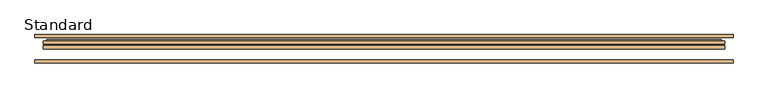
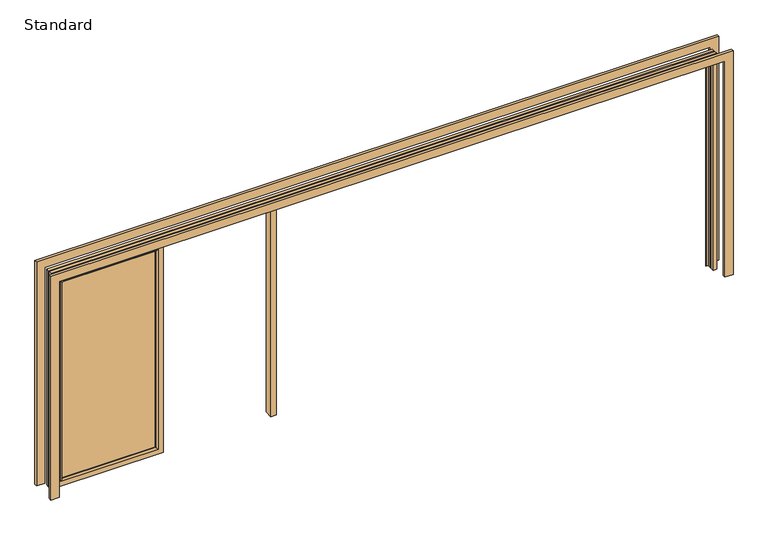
"""IFC4 building model written with IfcOpenShell, lengths in millimetres: door geometry, SMARTS_Visofold1000 : Standard."""

import ifcopenshell
import ifcopenshell.guid

model = None  # the IFC model being written
_history = None  # IfcOwnerHistory: only IFC2X3 demands one
_inside = {}  # id of a spatial element -> (the spatial element, [elements in it])
_under = {}  # id of a project, library or spatial element -> (it, [spatial elements below it])
_declared = {}  # id of a project -> (the project, [libraries it declares])
_typed = {}  # id of a type object -> (the type object, [elements of that type])
_made_of = {}  # id of a material, layer set ... -> (it, [elements and type objects made of it])


def new_model(schema):
    """Start an empty IFC model of exactly this schema.

    Asked for "IFC4X3", IfcOpenShell would pick the latest addendum, in which some entities
    have other attributes; the version numbers below select the first issue.
    IFC2X3 requires an IfcOwnerHistory on every rooted entity: one is made here for all.
    """
    global model, _history
    if schema == "IFC4X3":
        model = ifcopenshell.file(schema_version=(4, 3, 0, 0))
    else:
        model = ifcopenshell.file(schema=schema)
    _inside.clear()
    _under.clear()
    _declared.clear()
    _typed.clear()
    _made_of.clear()
    _history = None
    if model.schema == "IFC2X3":
        org = make("IfcOrganization", Name="unknown")
        user = make(
            "IfcPersonAndOrganization",
            ThePerson=make("IfcPerson", FamilyName="unknown"),
            TheOrganization=org,
        )
        app = make(
            "IfcApplication",
            ApplicationDeveloper=org,
            Version="unknown",
            ApplicationFullName="unknown",
            ApplicationIdentifier="unknown",
        )
        _history = make(
            "IfcOwnerHistory",
            OwningUser=user,
            OwningApplication=app,
            ChangeAction="ADDED",
            CreationDate=0,
        )
    return model


def make(cls, **values):
    """One entity of the class cls with the attributes given. An attribute that is None is left unset."""
    return model.create_entity(
        cls, **{name: value for name, value in values.items() if value is not None}
    )


def rooted(cls, **values):
    """An entity with a GlobalId (a new one), such as an element, a storey or a relation."""
    return make(cls, GlobalId=ifcopenshell.guid.new(), OwnerHistory=_history, **values)


def si_unit(unit_type, name, prefix=None):
    """IfcSIUnit, for example si_unit("LENGTHUNIT", "METRE", prefix="MILLI")."""
    return make("IfcSIUnit", UnitType=unit_type, Prefix=prefix, Name=name)


def assignment(units):
    """IfcUnitAssignment: the units of a project."""
    return None if units is None else make("IfcUnitAssignment", Units=units)


def point(xyz):
    """IfcCartesianPoint."""
    return None if xyz is None else make("IfcCartesianPoint", Coordinates=xyz)


def direction(xyz):
    """IfcDirection."""
    return None if xyz is None else make("IfcDirection", DirectionRatios=xyz)


def frame(location, z_axis=None, x_axis=None):
    """IfcAxis2Placement3D, a coordinate frame: its origin and axes. An axis left out is left unset."""
    return make(
        "IfcAxis2Placement3D",
        Location=point(location),
        Axis=direction(z_axis),
        RefDirection=direction(x_axis),
    )


def origin():
    """The frame at (0, 0, 0) with its axes left unset."""
    return frame((0.0, 0.0, 0.0))


def origin_with_axes():
    """The frame at (0, 0, 0) with the z axis (0, 0, 1) and the x axis (1, 0, 0) written out."""
    return frame((0.0, 0.0, 0.0), z_axis=(0.0, 0.0, 1.0), x_axis=(1.0, 0.0, 0.0))


def place(relative_to, where):
    """IfcLocalPlacement: puts the frame where relative to a parent placement (None: the world)."""
    return make(
        "IfcLocalPlacement", PlacementRelTo=relative_to, RelativePlacement=where
    )


def context(
    kind, dimensions, precision=None, world=None, true_north=None, identifier=None
):
    """IfcGeometricRepresentationContext, for example the 3D "Model" context."""
    return make(
        "IfcGeometricRepresentationContext",
        ContextIdentifier=identifier,
        ContextType=kind,
        CoordinateSpaceDimension=dimensions,
        Precision=precision,
        WorldCoordinateSystem=world,
        TrueNorth=true_north,
    )


def project(units=None, contexts=None):
    """IfcProject with its units and contexts."""
    return rooted(
        "IfcProject",
        Name="project",
        RepresentationContexts=contexts,
        UnitsInContext=assignment(units),
    )


def spatial(cls, under=None, at=None, **own):
    """A site, building, storey or space (cls), placed at a placement, below another one or the project."""
    s = rooted(cls, ObjectPlacement=at, **own)
    if under is not None:
        _under.setdefault(under.id(), (under, []))[1].append(s)
    return s


def polyline(points):
    """IfcPolyline through the points."""
    return make("IfcPolyline", Points=[point(p) for p in points])


def ellipse_curve(where, semi_axis1, semi_axis2):
    """IfcEllipse in the frame where."""
    return make(
        "IfcEllipse", Position=where, SemiAxis1=semi_axis1, SemiAxis2=semi_axis2
    )


def outline(outer, holes=None, kind="AREA"):
    """IfcArbitraryClosedProfileDef: a profile drawn as a closed curve; with holes, ...WithVoids."""
    if holes is None:
        return make("IfcArbitraryClosedProfileDef", ProfileType=kind, OuterCurve=outer)
    return make(
        "IfcArbitraryProfileDefWithVoids",
        ProfileType=kind,
        OuterCurve=outer,
        InnerCurves=holes,
    )


def extrude(swept, where, along, depth):
    """IfcExtrudedAreaSolid: the profile swept, set in the frame where, extruded along a direction by depth."""
    return make(
        "IfcExtrudedAreaSolid",
        SweptArea=swept,
        Position=where,
        ExtrudedDirection=direction(along),
        Depth=depth,
    )


def faces_of(points, faces, orient=None, outer=None):
    """IfcFace entities. A face is a list of loops; a loop is a list of indices into points, from 0.

    orient and outer hold one flag for each loop. By default every Orientation is true, the
    first loop of a face is its IfcFaceOuterBound and the others are IfcFaceBound.
    """
    made = []
    for i, loops in enumerate(faces):
        bounds = []
        for j, loop in enumerate(loops):
            is_outer = j == 0 if outer is None else outer[i][j]
            bounds.append(
                make(
                    "IfcFaceOuterBound" if is_outer else "IfcFaceBound",
                    Bound=make("IfcPolyLoop", Polygon=[points[k] for k in loop]),
                    Orientation=True if orient is None else orient[i][j],
                )
            )
        made.append(make("IfcFace", Bounds=bounds))
    return made


def faceted_brep(points, faces, orient=None, outer=None, voids=None):
    """IfcFacetedBrep: a solid bounded by flat faces; with voids (closed shells), ...WithVoids."""
    shared = [point(p) for p in points]
    hull = make("IfcClosedShell", CfsFaces=faces_of(shared, faces, orient, outer))
    if voids is None:
        return make("IfcFacetedBrep", Outer=hull)
    return make(
        "IfcFacetedBrepWithVoids",
        Outer=hull,
        Voids=[
            make(cls, CfsFaces=faces_of(shared, fs, o, b)) for cls, fs, o, b in voids
        ],
    )


def shape(context_of_items, identifier, shape_type, items):
    """IfcShapeRepresentation: the items that make up one representation, for example the "Body"."""
    return make(
        "IfcShapeRepresentation",
        ContextOfItems=context_of_items,
        RepresentationIdentifier=identifier,
        RepresentationType=shape_type,
        Items=items,
    )


def source(mapping_origin, context_of_items, identifier, shape_type, items):
    """IfcRepresentationMap: a shape defined once, which mapped items show again and again."""
    return make(
        "IfcRepresentationMap",
        MappingOrigin=mapping_origin,
        MappedRepresentation=shape(context_of_items, identifier, shape_type, items),
    )


def transform(
    local_origin,
    x_axis=None,
    y_axis=None,
    z_axis=None,
    scale=None,
    scale2=None,
    scale3=None,
    uniform=True,
):
    """IfcCartesianTransformationOperator3D, or its non-uniform kind. x_axis, y_axis, z_axis: its Axis1, 2, 3."""
    if uniform:
        return make(
            "IfcCartesianTransformationOperator3D",
            Axis1=direction(x_axis),
            Axis2=direction(y_axis),
            LocalOrigin=point(local_origin),
            Scale=scale,
            Axis3=direction(z_axis),
        )
    return make(
        "IfcCartesianTransformationOperator3DnonUniform",
        Axis1=direction(x_axis),
        Axis2=direction(y_axis),
        LocalOrigin=point(local_origin),
        Scale=scale,
        Axis3=direction(z_axis),
        Scale2=scale2,
        Scale3=scale3,
    )


def mapped(mapping_source, mapping_target):
    """IfcMappedItem: shows the shape of a source again, moved by a transform."""
    return make(
        "IfcMappedItem", MappingSource=mapping_source, MappingTarget=mapping_target
    )


def made_of(thing, what):
    """Note that an element or type object is made of a material, layer set ...; save() writes the relation."""
    if what is not None:
        _made_of.setdefault(what.id(), (what, []))[1].append(thing)
    return thing


def element(
    cls,
    number,
    at=None,
    inside=None,
    cuts=None,
    type_object=None,
    material=None,
    context=None,
    identifier="Body",
    shape_type=None,
    held_by="IfcProductDefinitionShape",
    body=None,
    shapes=None,
    **own,
):
    """One element of the class cls, such as IfcWall. Its Tag is "e" and its number.

    at: its placement. inside: the storey or other place that contains it. cuts: it is an
    opening in that element (IfcRelVoidsElement). A single representation is given by context,
    identifier, shape_type and body (its items); several are given by shapes. held_by: the class
    of the entity that holds the representations. save() writes the other relations.
    """
    e = rooted(cls, Tag="e%d" % number, ObjectPlacement=at, **own)
    if body is not None:
        shapes = [shape(context, identifier, shape_type, body)]
    if shapes is not None:
        e.Representation = make(held_by, Representations=shapes)
    if inside is not None:
        _inside.setdefault(inside.id(), (inside, []))[1].append(e)
    if cuts is not None:
        rooted(
            "IfcRelVoidsElement", RelatingBuildingElement=cuts, RelatedOpeningElement=e
        )
    if type_object is not None:
        _typed.setdefault(type_object.id(), (type_object, []))[1].append(e)
    return made_of(e, material)


def aggregate(whole, parts):
    """IfcRelAggregates: a whole, such as a stair, and the parts it consists of."""
    return rooted("IfcRelAggregates", RelatingObject=whole, RelatedObjects=parts)


def save(model, path):
    """Write the relations noted so far, then the file.

    IfcRelAggregates (storeys below a building ...), IfcRelContainedInSpatialStructure (elements
    in a storey), IfcRelDefinesByType, IfcRelAssociatesMaterial and IfcRelDeclares: one each for
    every whole, place, type object, material and project.
    """
    for whole, parts in _under.values():
        aggregate(whole, parts)
    for where, things in _inside.values():
        rooted(
            "IfcRelContainedInSpatialStructure",
            RelatedElements=things,
            RelatingStructure=where,
        )
    for kind, things in _typed.values():
        rooted("IfcRelDefinesByType", RelatedObjects=things, RelatingType=kind)
    for what, things in _made_of.values():
        rooted("IfcRelAssociatesMaterial", RelatedObjects=things, RelatingMaterial=what)
    for by, libraries in _declared.values():
        rooted("IfcRelDeclares", RelatingContext=by, RelatedDefinitions=libraries)
    model.write(path)


def plane_surface(at):
    """IfcPlane: the flat surface through the origin of the frame at, square to its z axis."""
    return make("IfcPlane", Position=at)


def cylinder_surface(at, radius):
    """IfcCylindricalSurface: all points at the distance radius from the z axis of the frame at."""
    return make("IfcCylindricalSurface", Position=at, Radius=radius)


def advanced_brep(points, edges, surfaces, faces):
    """IfcAdvancedBrep: a solid bounded by faces that lie on surfaces and meet in shared edges.

    An edge is (start, end): straight between two places in points (the first is 0);
    or (start, end, curve); or (start, end, curve, False) where it runs against its curve.
    A face is (place in surfaces, loops), or (place, loops, False) where it looks against
    its surface's normal. A loop lists edges by number (the first is 1), with a minus sign
    where the edge is run from its end to its start. The first loop is the outer one.
    """
    corners = [point(p) for p in points]
    vertices = [make("IfcVertexPoint", VertexGeometry=c) for c in corners]
    made = []
    for start, end, *more in edges:
        made.append(
            make(
                "IfcEdgeCurve",
                EdgeStart=vertices[start],
                EdgeEnd=vertices[end],
                EdgeGeometry=more[0] if more else make("IfcPolyline", Points=[corners[start], corners[end]]),
                SameSense=more[1] if len(more) > 1 else True,
            )
        )
    hull = []
    for where, loops, *sense in faces:
        bounds = []
        for j, loop in enumerate(loops):
            ring = [make("IfcOrientedEdge", EdgeElement=made[abs(k) - 1], Orientation=k > 0) for k in loop]
            bounds.append(
                make(
                    "IfcFaceOuterBound" if j == 0 else "IfcFaceBound",
                    Bound=make("IfcEdgeLoop", EdgeList=ring),
                    Orientation=True,
                )
            )
        hull.append(make("IfcAdvancedFace", Bounds=bounds, FaceSurface=surfaces[where], SameSense=sense[0] if sense else True))
    return make("IfcAdvancedBrep", Outer=make("IfcClosedShell", CfsFaces=hull))


def standard_87167aca(model_context):
    return source(origin(), model_context, "Body", "SolidModel", [
        advanced_brep(
        [(-2050.5, 13.3, 60.5), (-2050.5, 13.3, 1939.5), (-2050.5, 17.4, 1939.5), (-2050.5, 17.4, 60.5), (-1990.0, 17.4, 0.0), (-1990.0, 17.4, 2000.0), (-1990.0, 0.0, 2000.0), (-1990.0, 0.0, 0.0), (-2899.5, 13.3, 1939.5), (-2899.5, 17.4, 1939.5), (-2960.0, 17.4, 2000.0), (-2960.0, 0.0, 2000.0), (-2899.5, 13.3, 60.5), (-2899.5, 17.4, 60.5), (-2960.0, 17.4, 0.0), (-2960.0, 0.0, 0.0), (-2037.2, 0.0, 1952.8), (-2037.2, 0.0, 47.2), (-2912.8, 0.0, 47.2), (-2912.8, 0.0, 1952.8), (-2007.8691481, 34.8, 17.8691481), (-2007.8691481, 34.8, 1982.1308519), (-2007.8691481, 17.4, 1982.1308519), (-2007.8691481, 17.4, 17.8691481), (-2942.1308519, 34.8, 1982.1308519), (-2942.1308519, 17.4, 1982.1308519), (-2942.1308519, 34.8, 17.8691481), (-2942.1308519, 17.4, 17.8691481), (-2035.0, 17.4, 45.0), (-2035.0, 17.4, 1955.0), (-2035.0, 34.8, 1955.0), (-2035.0, 34.8, 45.0), (-2915.0, 17.4, 1955.0), (-2915.0, 34.8, 1955.0), (-2915.0, 17.4, 45.0), (-2915.0, 34.8, 45.0)],
        [
            (0, 1),
            (1, 2),
            (2, 3),
            (3, 0),
            (4, 5),
            (5, 6),
            (6, 7),
            (7, 4),
            (1, 8),
            (8, 9),
            (9, 2),
            (5, 10),
            (10, 11),
            (11, 6),
            (8, 12),
            (12, 13),
            (13, 9),
            (10, 14),
            (14, 15),
            (15, 11),
            (12, 0),
            (3, 13),
            (15, 7),
            (16, 17),
            (17, 18),
            (18, 19),
            (19, 16),
            (14, 4),
            (16, 1, ellipse_curve(frame((-2037.2, 13.3, 1952.8), z_axis=(0.7071067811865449, 0.0, -0.70710678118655), x_axis=(-0.7071067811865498, 0.0, -0.7071067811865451)), 18.8090404, 13.3)),
            (0, 17, ellipse_curve(frame((-2037.2, 13.3, 47.2), z_axis=(0.70710678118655, 0.0, 0.7071067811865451), x_axis=(0.7071067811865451, 0.0, -0.7071067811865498)), 18.8090404, 13.3)),
            (19, 8, ellipse_curve(frame((-2912.8, 13.3, 1952.8), z_axis=(0.7071067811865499, 0.0, 0.707106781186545), x_axis=(0.7071067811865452, 0.0, -0.7071067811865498)), 18.8090404, 13.3)),
            (18, 12, ellipse_curve(frame((-2912.8, 13.3, 47.2), z_axis=(-0.7071067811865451, 0.0, 0.7071067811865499), x_axis=(0.7071067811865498, 0.0, 0.7071067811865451)), 18.8090404, 13.3)),
            (20, 21),
            (21, 22),
            (22, 23),
            (23, 20),
            (21, 24),
            (24, 25),
            (25, 22),
            (24, 26),
            (26, 27),
            (27, 25),
            (27, 23),
            (26, 20),
            (28, 29),
            (29, 30),
            (30, 31),
            (31, 28),
            (29, 32),
            (32, 33),
            (33, 30),
            (32, 34),
            (34, 35),
            (35, 33),
            (34, 28),
            (31, 35),
        ],
        [
            plane_surface(frame((-2050.5, 17.4, 60.5), z_axis=(-1.0, 0.0, 0.0), x_axis=(0.0, 0.0, 1.0))),
            plane_surface(frame((-1990.0, 0.0, 0.0), z_axis=(1.0, 0.0, 0.0), x_axis=(0.0, 0.0, 1.0))),
            plane_surface(frame((-2050.5, 17.4, 1939.5), z_axis=(0.0, 0.0, -1.0), x_axis=(-1.0, 0.0, 0.0))),
            plane_surface(frame((-1990.0, 0.0, 2000.0), z_axis=(0.0, 0.0, 1.0), x_axis=(-1.0, 0.0, 0.0))),
            plane_surface(frame((-2899.5, 17.4, 1939.5), z_axis=(1.0, 0.0, 0.0), x_axis=(0.0, 0.0, -1.0))),
            plane_surface(frame((-2960.0, 0.0, 2000.0), z_axis=(-1.0, 0.0, 0.0), x_axis=(0.0, 0.0, -1.0))),
            plane_surface(frame((-2899.5, 17.4, 60.5), z_axis=(0.0, 0.0, 1.0), x_axis=(1.0, 0.0, 0.0))),
            plane_surface(frame((-2912.8, 0.0, 47.2), z_axis=(0.0, -1.0, 0.0), x_axis=(1.0, 0.0, 0.0))),
            plane_surface(frame((-2960.0, 0.0, 0.0), z_axis=(0.0, 0.0, -1.0), x_axis=(1.0, 0.0, 0.0))),
            cylinder_surface(frame((-2037.2, 13.3, 0.0), z_axis=(0.0, 0.0, -1.0), x_axis=(0.0, 1.0, 0.0)), 13.3),
            cylinder_surface(frame((-1990.0, 13.3, 1952.8), z_axis=(1.0, 0.0, 0.0), x_axis=(0.0, 1.0, 0.0)), 13.3),
            cylinder_surface(frame((-2912.8, 13.3, 2000.0), z_axis=(0.0, 0.0, 1.0), x_axis=(0.0, 1.0, 0.0)), 13.3),
            cylinder_surface(frame((-2960.0, 13.3, 47.2), z_axis=(-1.0, 0.0, 0.0), x_axis=(0.0, 1.0, 0.0)), 13.3),
            plane_surface(frame((-2007.8691481, 17.4, 17.8691481), z_axis=(1.0, 0.0, 0.0), x_axis=(0.0, 0.0, 1.0))),
            plane_surface(frame((-2007.8691481, 17.4, 1982.1308519), z_axis=(0.0, 0.0, 1.0), x_axis=(-1.0, 0.0, 0.0))),
            plane_surface(frame((-2942.1308519, 17.4, 1982.1308519), z_axis=(-1.0, 0.0, 0.0), x_axis=(0.0, 0.0, -1.0))),
            plane_surface(frame((-2960.0, 17.4, 0.0), z_axis=(0.0, 1.0, 0.0), x_axis=(1.0, 0.0, 0.0))),
            plane_surface(frame((-2942.1308519, 17.4, 17.8691481), z_axis=(0.0, 0.0, -1.0), x_axis=(1.0, 0.0, 0.0))),
            plane_surface(frame((-2035.0, 34.8, 45.0), z_axis=(-1.0, 0.0, 0.0), x_axis=(0.0, 0.0, 1.0))),
            plane_surface(frame((-2035.0, 34.8, 1955.0), z_axis=(0.0, 0.0, -1.0), x_axis=(-1.0, 0.0, 0.0))),
            plane_surface(frame((-2915.0, 34.8, 1955.0), z_axis=(1.0, 0.0, 0.0), x_axis=(0.0, 0.0, -1.0))),
            plane_surface(frame((-2915.0, 34.8, 45.0), z_axis=(0.0, 0.0, 1.0), x_axis=(1.0, 0.0, 0.0))),
            plane_surface(frame((-2915.0, 17.4, 45.0), z_axis=(0.0, 1.0, 0.0), x_axis=(1.0, 0.0, 0.0))),
            plane_surface(frame((-2942.1308519, 34.8, 17.8691481), z_axis=(0.0, 1.0, 0.0), x_axis=(1.0, 0.0, 0.0))),
        ],
        [
            (0, [[1, 2, 3, 4]]),
            (1, [[5, 6, 7, 8]]),
            (2, [[9, 10, 11, -2]]),
            (3, [[12, 13, 14, -6]]),
            (4, [[15, 16, 17, -10]]),
            (5, [[18, 19, 20, -13]]),
            (6, [[21, -4, 22, -16]]),
            (7, [[-7, -14, -20, 23], [24, 25, 26, 27]]),
            (8, [[28, -8, -23, -19]]),
            (9, [[-24, 29, -1, 30]]),
            (10, [[-27, 31, -9, -29]]),
            (11, [[-26, 32, -15, -31]]),
            (12, [[-25, -30, -21, -32]]),
            (13, [[33, 34, 35, 36]]),
            (14, [[37, 38, 39, -34]]),
            (15, [[40, 41, 42, -38]]),
            (16, [[-5, -28, -18, -12], [-35, -39, -42, 43]]),
            (17, [[44, -36, -43, -41]]),
            (18, [[45, 46, 47, 48]]),
            (19, [[49, 50, 51, -46]]),
            (20, [[52, 53, 54, -50]]),
            (21, [[55, -48, 56, -53]]),
            (22, [[-45, -55, -52, -49], [-3, -11, -17, -22]]),
            (23, [[-33, -44, -40, -37], [-47, -51, -54, -56]]),
        ],
    ),
        extrude(outline(polyline([(-2050.5, 50.1484783), (-2050.5, 21.4), (-2899.5, 21.4), (-2899.5, 50.1484783), (-2050.5, 50.1484783)])), frame((0.0, 0.0, 60.5), z_axis=(0.0, 0.0, 1.0), x_axis=(1.0, 0.0, 0.0)), (0.0, 0.0, 1.0), 1879.0),
        extrude(outline(polyline([(-970.0, 0.0), (-1020.0, 0.0), (-1020.0, 75.1750992), (-970.0, 75.1750992), (-970.0, 0.0)])), origin_with_axes(), (0.0, 0.0, 1.0), 2000.0),
        extrude(outline(polyline([(2058.6516063, -3000.0), (2058.6516063, 3000.0), (0.0, 3000.0), (0.0, 3075.0), (2133.6516063, 3075.0), (2133.6516063, -3075.0), (0.0, -3075.0), (0.0, -3000.0), (2058.6516063, -3000.0)])), frame((0.0, 100.0, 0.0), z_axis=(0.0, 1.0, 0.0), x_axis=(0.0, 0.0, 1.0)), (0.0, 0.0, 1.0), 25.0),
        extrude(outline(polyline([(2133.6516063, -3075.0), (0.0, -3075.0), (0.0, -3000.0), (2058.6516063, -3000.0), (2058.6516063, 3000.0), (0.0, 3000.0), (0.0, 3075.0), (2133.6516063, 3075.0), (2133.6516063, -3075.0)])), frame((0.0, -125.0, 0.0), z_axis=(0.0, 1.0, 0.0), x_axis=(0.0, 0.0, 1.0)), (0.0, 0.0, 1.0), 25.0),
        extrude(outline(polyline([(0.0, 2968.8), (0.0, 3000.0), (2058.6516063, 3000.0), (2058.6516063, -3000.0), (0.0, -3000.0), (0.0, -2968.8), (2027.4516063, -2968.8), (2027.4516063, 2968.8), (0.0, 2968.8)])), frame((0.0, 0.0, 0.0), z_axis=(0.0, 1.0, 0.0), x_axis=(0.0, 0.0, 1.0)), (0.0, 0.0, 1.0), 29.65),
        faceted_brep([(3000.0, 44.85, 0.0), (2968.8, 44.85, 0.0), (2968.8, 77.4, 0.0), (2948.3, 77.4, 0.0), (2948.3, 81.9, 0.0), (2970.6, 81.9, 0.0), (2970.6, 70.0, 0.0), (3000.0, 70.0, 0.0), (3000.0, 44.85, 2058.6516063), (-3000.0, 44.85, 2058.6516063), (-3000.0, 44.85, 0.0), (-2968.8, 44.85, 0.0), (-2968.8, 44.85, 2027.4516063), (2968.8, 44.85, 2027.4516063), (2968.8, 77.4, 2027.4516063), (-2968.8, 77.4, 2027.4516063), (-2968.8, 77.4, 0.0), (-2948.3, 77.4, 0.0), (-2948.3, 77.4, 2006.9516063), (2948.3, 77.4, 2006.9516063), (2948.3, 81.9, 2006.9516063), (-2948.3, 81.9, 2006.9516063), (-2948.3, 81.9, 0.0), (-2970.6, 81.9, 0.0), (-2970.6, 81.9, 2029.2516063), (2970.6, 81.9, 2029.2516063), (2970.6, 70.0, 2029.2516063), (-2970.6, 70.0, 2029.2516063), (-2970.6, 70.0, 0.0), (-3000.0, 70.0, 0.0), (-3000.0, 70.0, 2058.6516063), (3000.0, 70.0, 2058.6516063)], [[[0, 1, 2, 3, 4, 5, 6, 7]], [[1, 0, 8, 9, 10, 11, 12, 13]], [[2, 1, 13, 14]], [[3, 2, 14, 15, 16, 17, 18, 19]], [[4, 3, 19, 20]], [[5, 4, 20, 21, 22, 23, 24, 25]], [[6, 5, 25, 26]], [[7, 6, 26, 27, 28, 29, 30, 31]], [[0, 7, 31, 8]], [[10, 29, 28, 23, 22, 17, 16, 11]], [[9, 30, 29, 10]], [[27, 24, 23, 28]], [[21, 18, 17, 22]], [[15, 12, 11, 16]], [[8, 31, 30, 9]], [[14, 13, 12, 15]], [[26, 25, 24, 27]], [[20, 19, 18, 21]]]),
    ])


if __name__ == "__main__":
    model = new_model("IFC4")
    model_context = context("Model", 3, world=origin())
    ifc_project = project(units=[si_unit("LENGTHUNIT", "METRE", prefix="MILLI")], contexts=[model_context])
    site = spatial("IfcSite", under=ifc_project)
    building = spatial("IfcBuilding", under=site)
    placement = place(None, origin())
    standard_shape = standard_87167aca(model_context)
    element("IfcDoor", 1, ObjectType="SMARTS_Visofold1000 : Standard", at=placement, inside=building, context=model_context, shape_type="MappedRepresentation", body=[
        mapped(standard_shape, transform((0.0, 0.0, 0.0), x_axis=(1.0, 0.0, 0.0), y_axis=(0.0, 1.0, 0.0), z_axis=(0.0, 0.0, 1.0))),
    ])
    save(model, "model.ifc")
